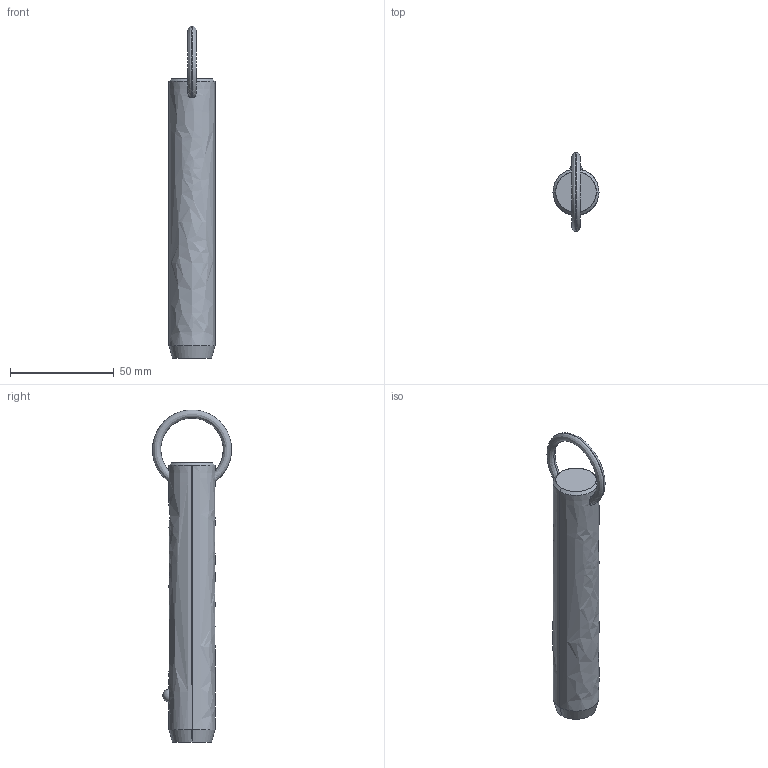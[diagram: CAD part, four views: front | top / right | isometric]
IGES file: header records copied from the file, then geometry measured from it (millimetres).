
Start section: SolidWorks IGES file using analytic representation for surfaces
Global section: file name: C:\Users\liam_\OneDrive\Documents\WORK\Work for WixRoyd\Job Files\J-00019 - Matt Davis CAD Checking\04. CAD Drawings\automotion20190605\P1250.2_v2\P1250.2_v2_20190729_IGES\P1250.087-380.igs; native system: SolidWorks 2017; preprocessor: SolidWorks 2017; author: liam_; date: 190730.001043; units: millimetre
Bounding box: 22.2 x 38.1 x 159.98 mm (x, y, z)
Surface area: 11031.2 mm2 (no closed solid volume)
Topology: 0 solids, 0 shells, 12 faces, 302 edges, 300 vertices
Faces by surface type: revolution 8, bspline 4
